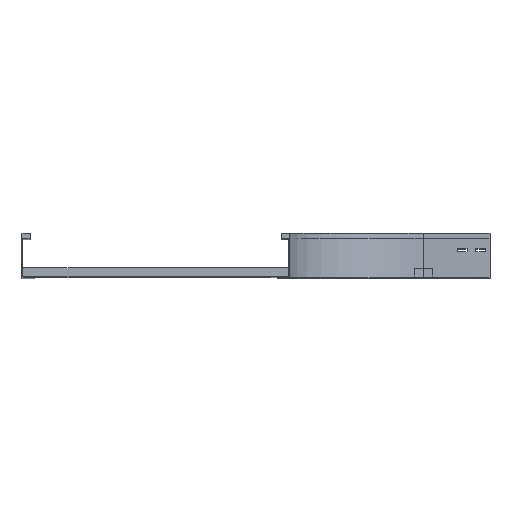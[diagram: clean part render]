
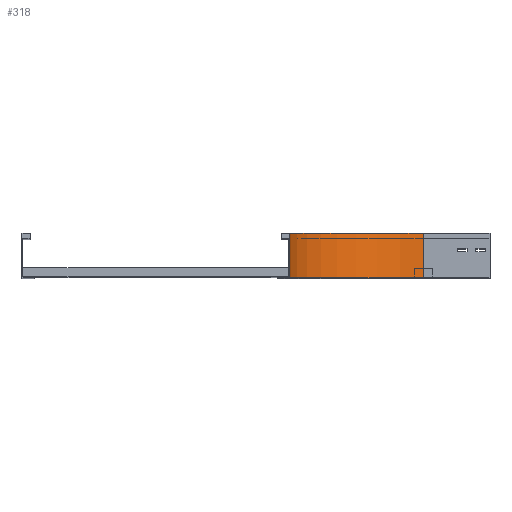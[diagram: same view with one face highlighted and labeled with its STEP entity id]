
A CAD part, top view. The second image highlights one B-rep face of the part: STEP entity #318.
In plain terms, the highlighted cylindrical face has radius 300 mm (diameter 600 mm), a partial arc.
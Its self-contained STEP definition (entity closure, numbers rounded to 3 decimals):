
#16 = ORIENTED_EDGE ( 'NONE', *, *, #2417, .F. ) ;
#130 = CARTESIAN_POINT ( 'NONE',  ( 0., 0., -150. ) ) ;
#141 = EDGE_CURVE ( 'NONE', #2131, #1565, #3088, .T. ) ;
#191 = DIRECTION ( 'NONE',  ( 0., 0., -1. ) ) ;
#210 = CARTESIAN_POINT ( 'NONE',  ( 300., 0., -150. ) ) ;
#212 = ORIENTED_EDGE ( 'NONE', *, *, #1414, .T. ) ;
#318 = ADVANCED_FACE ( 'NONE', ( #1990 ), #3484, .F. ) ;
#370 = CARTESIAN_POINT ( 'NONE',  ( 300., 100., -150. ) ) ;
#493 = CARTESIAN_POINT ( 'NONE',  ( 300., 0., -150. ) ) ;
#576 = EDGE_LOOP ( 'NONE', ( #2308, #16, #212, #1863 ) ) ;
#823 = AXIS2_PLACEMENT_3D ( 'NONE', #493, #1690, #191 ) ;
#935 = VECTOR ( 'NONE', #1968, 1000. ) ;
#955 = VERTEX_POINT ( 'NONE', #971 ) ;
#958 = VERTEX_POINT ( 'NONE', #2179 ) ;
#971 = CARTESIAN_POINT ( 'NONE',  ( 0., 0., -150. ) ) ;
#1064 = LINE ( 'NONE', #130, #935 ) ;
#1104 = VECTOR ( 'NONE', #3031, 1000. ) ;
#1107 = DIRECTION ( 'NONE',  ( 0., -1., 0. ) ) ;
#1414 = EDGE_CURVE ( 'NONE', #955, #958, #2877, .T. ) ;
#1556 = AXIS2_PLACEMENT_3D ( 'NONE', #210, #1107, #3729 ) ;
#1565 = VERTEX_POINT ( 'NONE', #3038 ) ;
#1690 = DIRECTION ( 'NONE',  ( 0., -1., 0. ) ) ;
#1863 = ORIENTED_EDGE ( 'NONE', *, *, #3103, .T. ) ;
#1968 = DIRECTION ( 'NONE',  ( 0., 1., 0. ) ) ;
#1990 = FACE_OUTER_BOUND ( 'NONE', #576, .T. ) ;
#2092 = AXIS2_PLACEMENT_3D ( 'NONE', #370, #2458, #2406 ) ;
#2131 = VERTEX_POINT ( 'NONE', #3076 ) ;
#2179 = CARTESIAN_POINT ( 'NONE',  ( 300., 0., -450. ) ) ;
#2308 = ORIENTED_EDGE ( 'NONE', *, *, #141, .F. ) ;
#2406 = DIRECTION ( 'NONE',  ( -1., 0., 0. ) ) ;
#2417 = EDGE_CURVE ( 'NONE', #955, #2131, #1064, .T. ) ;
#2458 = DIRECTION ( 'NONE',  ( 0., -1., 0. ) ) ;
#2877 = CIRCLE ( 'NONE', #1556, 300. ) ;
#3031 = DIRECTION ( 'NONE',  ( 0., 1., 0. ) ) ;
#3038 = CARTESIAN_POINT ( 'NONE',  ( 300., 100., -450. ) ) ;
#3049 = LINE ( 'NONE', #3305, #1104 ) ;
#3076 = CARTESIAN_POINT ( 'NONE',  ( 0., 100., -150. ) ) ;
#3088 = CIRCLE ( 'NONE', #2092, 300. ) ;
#3103 = EDGE_CURVE ( 'NONE', #958, #1565, #3049, .T. ) ;
#3305 = CARTESIAN_POINT ( 'NONE',  ( 300., 0., -450. ) ) ;
#3484 = CYLINDRICAL_SURFACE ( 'NONE', #823, 300. ) ;
#3729 = DIRECTION ( 'NONE',  ( -1., 0., 0. ) ) ;
